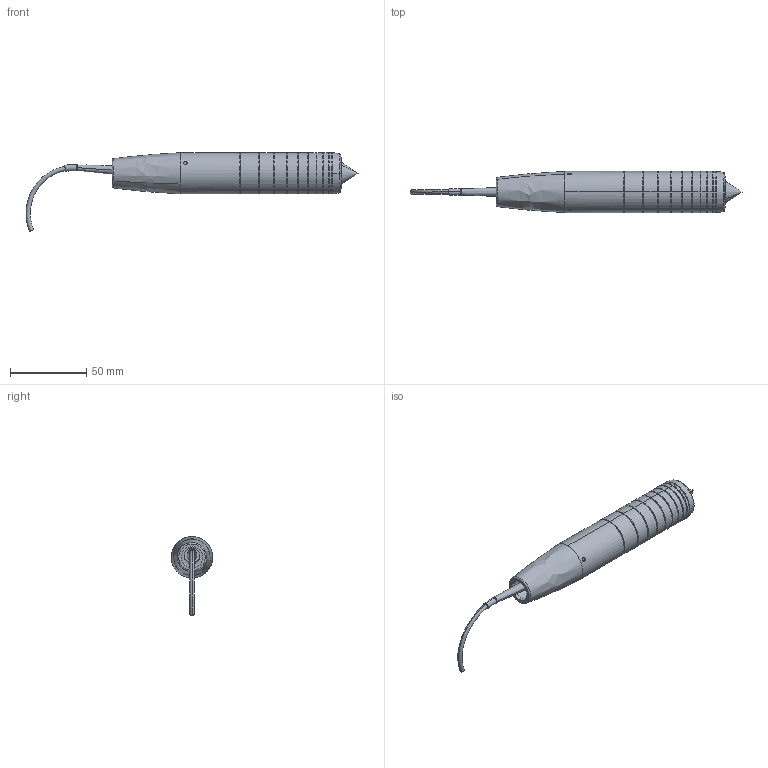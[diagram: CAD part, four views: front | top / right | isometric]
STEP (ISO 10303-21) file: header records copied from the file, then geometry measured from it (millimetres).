
FILE_DESCRIPTION (( 'STEP AP214' ), '1' );
FILE_NAME ('2602021 IFS2405-1 Sensor, vereinfacht.STEP', '2013-01-24T15:41:14', ( 'MICRO-EPSILON Optronic GmbH' ), ( 'MICRO-EPSILON Optronic GmbH' ), 'SwSTEP 2.0', 'SolidWorks 2012', '' );
FILE_SCHEMA (( 'AUTOMOTIVE_DESIGN' ));
Length unit declared in the file: millimetre
Products named in the file (1): 2602021 IFS2405-1 Sensor, vereinfacht
Bounding box: 217.31 x 27 x 51.51 mm (x, y, z)
Volume: 74519.4 mm3; surface area: 17853.1 mm2
Topology: 2 solids, 4 shells, 125 faces, 258 edges, 146 vertices
Faces by surface type: cylinder 56, bspline 44, plane 15, cone 6, torus 4
Entity records: 5558 total; most frequent: CARTESIAN_POINT 1757, DIRECTION 538, ORIENTED_EDGE 500, EDGE_CURVE 250, AXIS2_PLACEMENT_3D 234, CIRCLE 152, VERTEX_POINT 146, EDGE_LOOP 140
